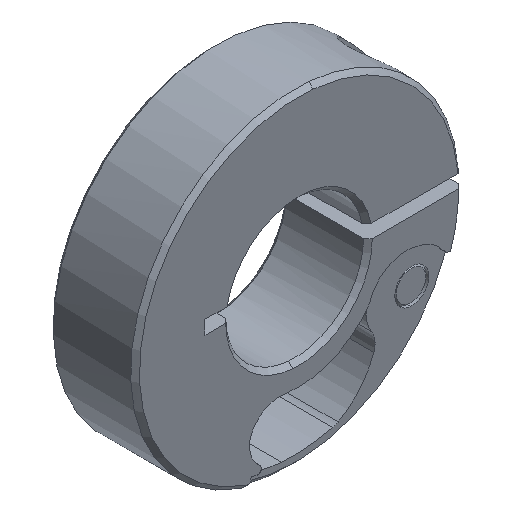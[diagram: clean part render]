
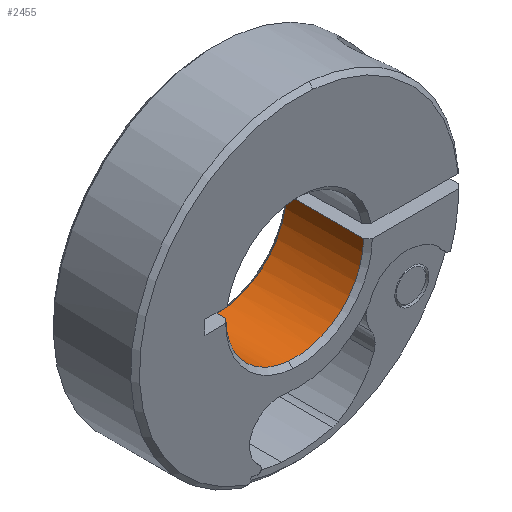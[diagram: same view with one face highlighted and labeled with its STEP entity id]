
A CAD part, isometric view. The second image highlights one B-rep face of the part: STEP entity #2455.
In plain terms, the highlighted cylindrical face has radius 8 mm (diameter 16 mm), a partial arc.
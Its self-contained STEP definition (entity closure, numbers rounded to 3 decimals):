
#137 = DIRECTION ( 'NONE',  ( 0., 0., 1. ) ) ;
#165 = EDGE_CURVE ( 'NONE', #315, #624, #3652, .T. ) ;
#315 = VERTEX_POINT ( 'NONE', #590 ) ;
#420 = LINE ( 'NONE', #3477, #2464 ) ;
#590 = CARTESIAN_POINT ( 'NONE',  ( 7.97, 0.508, 0.697 ) ) ;
#600 = DIRECTION ( 'NONE',  ( 0., 0., 1. ) ) ;
#624 = VERTEX_POINT ( 'NONE', #2706 ) ;
#741 = ORIENTED_EDGE ( 'NONE', *, *, #2304, .T. ) ;
#939 = DIRECTION ( 'NONE',  ( 0., 1., 0. ) ) ;
#986 = VERTEX_POINT ( 'NONE', #2825 ) ;
#1028 = DIRECTION ( 'NONE',  ( 0., 1., 0. ) ) ;
#1069 = CARTESIAN_POINT ( 'NONE',  ( 0., 9.492, 0. ) ) ;
#1126 = DIRECTION ( 'NONE',  ( 0., -1., 0. ) ) ;
#1374 = CIRCLE ( 'NONE', #3855, 8. ) ;
#1414 = DIRECTION ( 'NONE',  ( 0., 0., 1. ) ) ;
#1654 = CIRCLE ( 'NONE', #2226, 8. ) ;
#1769 = DIRECTION ( 'NONE',  ( 0., -1., 0. ) ) ;
#1855 = CARTESIAN_POINT ( 'NONE',  ( -7.97, 9.492, -0.697 ) ) ;
#1916 = EDGE_CURVE ( 'NONE', #4387, #986, #2744, .T. ) ;
#1923 = EDGE_LOOP ( 'NONE', ( #741, #2264, #2810, #2258, #3641 ) ) ;
#2212 = DIRECTION ( 'NONE',  ( 0., 1., 0. ) ) ;
#2226 = AXIS2_PLACEMENT_3D ( 'NONE', #1069, #1028, #1414 ) ;
#2258 = ORIENTED_EDGE ( 'NONE', *, *, #165, .T. ) ;
#2264 = ORIENTED_EDGE ( 'NONE', *, *, #1916, .T. ) ;
#2292 = CYLINDRICAL_SURFACE ( 'NONE', #3444, 8. ) ;
#2304 = EDGE_CURVE ( 'NONE', #3250, #4387, #420, .T. ) ;
#2455 = ADVANCED_FACE ( 'NONE', ( #2554 ), #2292, .F. ) ;
#2464 = VECTOR ( 'NONE', #1769, 1000. ) ;
#2536 = CARTESIAN_POINT ( 'NONE',  ( 0., 0.508, 0. ) ) ;
#2554 = FACE_OUTER_BOUND ( 'NONE', #1923, .T. ) ;
#2706 = CARTESIAN_POINT ( 'NONE',  ( 7.97, 9.492, 0.697 ) ) ;
#2744 = CIRCLE ( 'NONE', #4356, 8. ) ;
#2810 = ORIENTED_EDGE ( 'NONE', *, *, #3324, .T. ) ;
#2825 = CARTESIAN_POINT ( 'NONE',  ( 0., 0.508, -8. ) ) ;
#2921 = VECTOR ( 'NONE', #939, 1000. ) ;
#3250 = VERTEX_POINT ( 'NONE', #1855 ) ;
#3324 = EDGE_CURVE ( 'NONE', #986, #315, #1374, .T. ) ;
#3444 = AXIS2_PLACEMENT_3D ( 'NONE', #3898, #2212, #600 ) ;
#3445 = EDGE_CURVE ( 'NONE', #624, #3250, #1654, .T. ) ;
#3477 = CARTESIAN_POINT ( 'NONE',  ( -7.97, 0., -0.697 ) ) ;
#3502 = CARTESIAN_POINT ( 'NONE',  ( -7.97, 0.508, -0.697 ) ) ;
#3603 = DIRECTION ( 'NONE',  ( 0., -1., 0. ) ) ;
#3641 = ORIENTED_EDGE ( 'NONE', *, *, #3445, .T. ) ;
#3652 = LINE ( 'NONE', #3727, #2921 ) ;
#3727 = CARTESIAN_POINT ( 'NONE',  ( 7.97, 0., 0.697 ) ) ;
#3855 = AXIS2_PLACEMENT_3D ( 'NONE', #2536, #3603, #3882 ) ;
#3882 = DIRECTION ( 'NONE',  ( 0., 0., 1. ) ) ;
#3898 = CARTESIAN_POINT ( 'NONE',  ( 0., 0., 0. ) ) ;
#4179 = CARTESIAN_POINT ( 'NONE',  ( 0., 0.508, 0. ) ) ;
#4356 = AXIS2_PLACEMENT_3D ( 'NONE', #4179, #1126, #137 ) ;
#4387 = VERTEX_POINT ( 'NONE', #3502 ) ;
